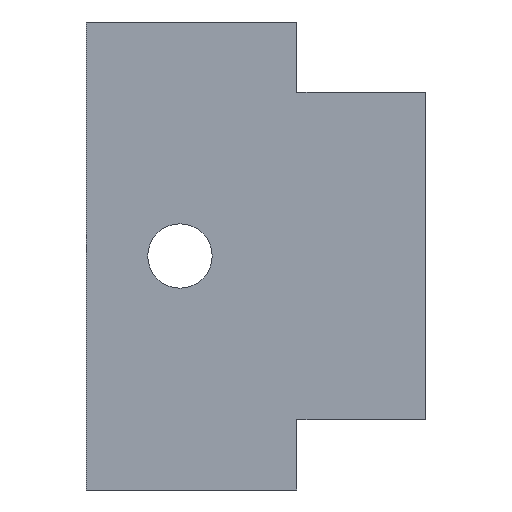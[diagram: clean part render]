
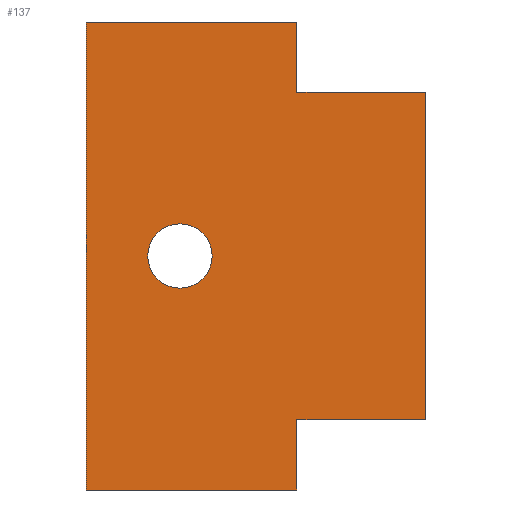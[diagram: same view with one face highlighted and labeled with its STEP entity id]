
A CAD part, front view. The second image highlights one B-rep face of the part: STEP entity #137.
In plain terms, the highlighted planar face has unit normal (0, -1, 0).
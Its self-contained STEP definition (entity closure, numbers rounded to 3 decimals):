
#21 = EDGE_CURVE('',#22,#24,#26,.T.);
#22 = VERTEX_POINT('',#23);
#23 = CARTESIAN_POINT('',(-18.,0.,-20.));
#24 = VERTEX_POINT('',#25);
#25 = CARTESIAN_POINT('',(-18.,0.,20.));
#26 = SURFACE_CURVE('',#27,(#31,#43),.PCURVE_S1.);
#27 = LINE('',#28,#29);
#28 = CARTESIAN_POINT('',(-18.,0.,-20.));
#29 = VECTOR('',#30,1.);
#30 = DIRECTION('',(0.,0.,1.));
#31 = PCURVE('',#32,#37);
#32 = PLANE('',#33);
#33 = AXIS2_PLACEMENT_3D('',#34,#35,#36);
#34 = CARTESIAN_POINT('',(-18.,0.,-20.));
#35 = DIRECTION('',(1.,0.,0.));
#36 = DIRECTION('',(0.,0.,1.));
#37 = DEFINITIONAL_REPRESENTATION('',(#38),#42);
#38 = LINE('',#39,#40);
#39 = CARTESIAN_POINT('',(0.,0.));
#40 = VECTOR('',#41,1.);
#41 = DIRECTION('',(1.,0.));
#42 = ( GEOMETRIC_REPRESENTATION_CONTEXT(2) 
PARAMETRIC_REPRESENTATION_CONTEXT() REPRESENTATION_CONTEXT('2D SPACE',''
  ) );
#43 = PCURVE('',#44,#49);
#44 = PLANE('',#45);
#45 = AXIS2_PLACEMENT_3D('',#46,#47,#48);
#46 = CARTESIAN_POINT('',(-18.,0.,-20.));
#47 = DIRECTION('',(0.,1.,0.));
#48 = DIRECTION('',(0.,0.,1.));
#49 = DEFINITIONAL_REPRESENTATION('',(#50),#54);
#50 = LINE('',#51,#52);
#51 = CARTESIAN_POINT('',(0.,0.));
#52 = VECTOR('',#53,1.);
#53 = DIRECTION('',(1.,0.));
#54 = ( GEOMETRIC_REPRESENTATION_CONTEXT(2) 
PARAMETRIC_REPRESENTATION_CONTEXT() REPRESENTATION_CONTEXT('2D SPACE',''
  ) );
#72 = PLANE('',#73);
#73 = AXIS2_PLACEMENT_3D('',#74,#75,#76);
#74 = CARTESIAN_POINT('',(-18.,0.,-20.));
#75 = DIRECTION('',(0.,0.,1.));
#76 = DIRECTION('',(1.,0.,0.));
#126 = PLANE('',#127);
#127 = AXIS2_PLACEMENT_3D('',#128,#129,#130);
#128 = CARTESIAN_POINT('',(-18.,0.,20.));
#129 = DIRECTION('',(0.,0.,1.));
#130 = DIRECTION('',(1.,0.,0.));
#137 = ADVANCED_FACE('',(#138,#325),#44,.F.);
#138 = FACE_BOUND('',#139,.F.);
#139 = EDGE_LOOP('',(#140,#163,#164,#187,#215,#243,#271,#299));
#140 = ORIENTED_EDGE('',*,*,#141,.F.);
#141 = EDGE_CURVE('',#22,#142,#144,.T.);
#142 = VERTEX_POINT('',#143);
#143 = CARTESIAN_POINT('',(0.,0.,-20.));
#144 = SURFACE_CURVE('',#145,(#149,#156),.PCURVE_S1.);
#145 = LINE('',#146,#147);
#146 = CARTESIAN_POINT('',(-18.,0.,-20.));
#147 = VECTOR('',#148,1.);
#148 = DIRECTION('',(1.,0.,0.));
#149 = PCURVE('',#44,#150);
#150 = DEFINITIONAL_REPRESENTATION('',(#151),#155);
#151 = LINE('',#152,#153);
#152 = CARTESIAN_POINT('',(0.,0.));
#153 = VECTOR('',#154,1.);
#154 = DIRECTION('',(0.,1.));
#155 = ( GEOMETRIC_REPRESENTATION_CONTEXT(2) 
PARAMETRIC_REPRESENTATION_CONTEXT() REPRESENTATION_CONTEXT('2D SPACE',''
  ) );
#156 = PCURVE('',#72,#157);
#157 = DEFINITIONAL_REPRESENTATION('',(#158),#162);
#158 = LINE('',#159,#160);
#159 = CARTESIAN_POINT('',(0.,0.));
#160 = VECTOR('',#161,1.);
#161 = DIRECTION('',(1.,0.));
#162 = ( GEOMETRIC_REPRESENTATION_CONTEXT(2) 
PARAMETRIC_REPRESENTATION_CONTEXT() REPRESENTATION_CONTEXT('2D SPACE',''
  ) );
#163 = ORIENTED_EDGE('',*,*,#21,.T.);
#164 = ORIENTED_EDGE('',*,*,#165,.T.);
#165 = EDGE_CURVE('',#24,#166,#168,.T.);
#166 = VERTEX_POINT('',#167);
#167 = CARTESIAN_POINT('',(0.,0.,20.));
#168 = SURFACE_CURVE('',#169,(#173,#180),.PCURVE_S1.);
#169 = LINE('',#170,#171);
#170 = CARTESIAN_POINT('',(-18.,0.,20.));
#171 = VECTOR('',#172,1.);
#172 = DIRECTION('',(1.,0.,0.));
#173 = PCURVE('',#44,#174);
#174 = DEFINITIONAL_REPRESENTATION('',(#175),#179);
#175 = LINE('',#176,#177);
#176 = CARTESIAN_POINT('',(40.,0.));
#177 = VECTOR('',#178,1.);
#178 = DIRECTION('',(0.,1.));
#179 = ( GEOMETRIC_REPRESENTATION_CONTEXT(2) 
PARAMETRIC_REPRESENTATION_CONTEXT() REPRESENTATION_CONTEXT('2D SPACE',''
  ) );
#180 = PCURVE('',#126,#181);
#181 = DEFINITIONAL_REPRESENTATION('',(#182),#186);
#182 = LINE('',#183,#184);
#183 = CARTESIAN_POINT('',(0.,0.));
#184 = VECTOR('',#185,1.);
#185 = DIRECTION('',(1.,0.));
#186 = ( GEOMETRIC_REPRESENTATION_CONTEXT(2) 
PARAMETRIC_REPRESENTATION_CONTEXT() REPRESENTATION_CONTEXT('2D SPACE',''
  ) );
#187 = ORIENTED_EDGE('',*,*,#188,.F.);
#188 = EDGE_CURVE('',#189,#166,#191,.T.);
#189 = VERTEX_POINT('',#190);
#190 = CARTESIAN_POINT('',(0.,0.,14.));
#191 = SURFACE_CURVE('',#192,(#196,#203),.PCURVE_S1.);
#192 = LINE('',#193,#194);
#193 = CARTESIAN_POINT('',(0.,0.,-20.));
#194 = VECTOR('',#195,1.);
#195 = DIRECTION('',(0.,0.,1.));
#196 = PCURVE('',#44,#197);
#197 = DEFINITIONAL_REPRESENTATION('',(#198),#202);
#198 = LINE('',#199,#200);
#199 = CARTESIAN_POINT('',(0.,18.));
#200 = VECTOR('',#201,1.);
#201 = DIRECTION('',(1.,0.));
#202 = ( GEOMETRIC_REPRESENTATION_CONTEXT(2) 
PARAMETRIC_REPRESENTATION_CONTEXT() REPRESENTATION_CONTEXT('2D SPACE',''
  ) );
#203 = PCURVE('',#204,#209);
#204 = PLANE('',#205);
#205 = AXIS2_PLACEMENT_3D('',#206,#207,#208);
#206 = CARTESIAN_POINT('',(0.,0.,-20.));
#207 = DIRECTION('',(1.,0.,0.));
#208 = DIRECTION('',(0.,0.,1.));
#209 = DEFINITIONAL_REPRESENTATION('',(#210),#214);
#210 = LINE('',#211,#212);
#211 = CARTESIAN_POINT('',(0.,0.));
#212 = VECTOR('',#213,1.);
#213 = DIRECTION('',(1.,0.));
#214 = ( GEOMETRIC_REPRESENTATION_CONTEXT(2) 
PARAMETRIC_REPRESENTATION_CONTEXT() REPRESENTATION_CONTEXT('2D SPACE',''
  ) );
#215 = ORIENTED_EDGE('',*,*,#216,.T.);
#216 = EDGE_CURVE('',#189,#217,#219,.T.);
#217 = VERTEX_POINT('',#218);
#218 = CARTESIAN_POINT('',(11.,0.,14.));
#219 = SURFACE_CURVE('',#220,(#224,#231),.PCURVE_S1.);
#220 = LINE('',#221,#222);
#221 = CARTESIAN_POINT('',(0.,0.,14.));
#222 = VECTOR('',#223,1.);
#223 = DIRECTION('',(1.,0.,0.));
#224 = PCURVE('',#44,#225);
#225 = DEFINITIONAL_REPRESENTATION('',(#226),#230);
#226 = LINE('',#227,#228);
#227 = CARTESIAN_POINT('',(34.,18.));
#228 = VECTOR('',#229,1.);
#229 = DIRECTION('',(0.,1.));
#230 = ( GEOMETRIC_REPRESENTATION_CONTEXT(2) 
PARAMETRIC_REPRESENTATION_CONTEXT() REPRESENTATION_CONTEXT('2D SPACE',''
  ) );
#231 = PCURVE('',#232,#237);
#232 = PLANE('',#233);
#233 = AXIS2_PLACEMENT_3D('',#234,#235,#236);
#234 = CARTESIAN_POINT('',(0.,0.,14.));
#235 = DIRECTION('',(0.,0.,1.));
#236 = DIRECTION('',(1.,0.,0.));
#237 = DEFINITIONAL_REPRESENTATION('',(#238),#242);
#238 = LINE('',#239,#240);
#239 = CARTESIAN_POINT('',(0.,0.));
#240 = VECTOR('',#241,1.);
#241 = DIRECTION('',(1.,0.));
#242 = ( GEOMETRIC_REPRESENTATION_CONTEXT(2) 
PARAMETRIC_REPRESENTATION_CONTEXT() REPRESENTATION_CONTEXT('2D SPACE',''
  ) );
#243 = ORIENTED_EDGE('',*,*,#244,.F.);
#244 = EDGE_CURVE('',#245,#217,#247,.T.);
#245 = VERTEX_POINT('',#246);
#246 = CARTESIAN_POINT('',(11.,0.,-14.));
#247 = SURFACE_CURVE('',#248,(#252,#259),.PCURVE_S1.);
#248 = LINE('',#249,#250);
#249 = CARTESIAN_POINT('',(11.,0.,-14.));
#250 = VECTOR('',#251,1.);
#251 = DIRECTION('',(0.,0.,1.));
#252 = PCURVE('',#44,#253);
#253 = DEFINITIONAL_REPRESENTATION('',(#254),#258);
#254 = LINE('',#255,#256);
#255 = CARTESIAN_POINT('',(6.,29.));
#256 = VECTOR('',#257,1.);
#257 = DIRECTION('',(1.,0.));
#258 = ( GEOMETRIC_REPRESENTATION_CONTEXT(2) 
PARAMETRIC_REPRESENTATION_CONTEXT() REPRESENTATION_CONTEXT('2D SPACE',''
  ) );
#259 = PCURVE('',#260,#265);
#260 = PLANE('',#261);
#261 = AXIS2_PLACEMENT_3D('',#262,#263,#264);
#262 = CARTESIAN_POINT('',(11.,0.,-14.));
#263 = DIRECTION('',(1.,0.,0.));
#264 = DIRECTION('',(0.,0.,1.));
#265 = DEFINITIONAL_REPRESENTATION('',(#266),#270);
#266 = LINE('',#267,#268);
#267 = CARTESIAN_POINT('',(0.,0.));
#268 = VECTOR('',#269,1.);
#269 = DIRECTION('',(1.,0.));
#270 = ( GEOMETRIC_REPRESENTATION_CONTEXT(2) 
PARAMETRIC_REPRESENTATION_CONTEXT() REPRESENTATION_CONTEXT('2D SPACE',''
  ) );
#271 = ORIENTED_EDGE('',*,*,#272,.F.);
#272 = EDGE_CURVE('',#273,#245,#275,.T.);
#273 = VERTEX_POINT('',#274);
#274 = CARTESIAN_POINT('',(0.,0.,-14.));
#275 = SURFACE_CURVE('',#276,(#280,#287),.PCURVE_S1.);
#276 = LINE('',#277,#278);
#277 = CARTESIAN_POINT('',(0.,0.,-14.));
#278 = VECTOR('',#279,1.);
#279 = DIRECTION('',(1.,0.,0.));
#280 = PCURVE('',#44,#281);
#281 = DEFINITIONAL_REPRESENTATION('',(#282),#286);
#282 = LINE('',#283,#284);
#283 = CARTESIAN_POINT('',(6.,18.));
#284 = VECTOR('',#285,1.);
#285 = DIRECTION('',(0.,1.));
#286 = ( GEOMETRIC_REPRESENTATION_CONTEXT(2) 
PARAMETRIC_REPRESENTATION_CONTEXT() REPRESENTATION_CONTEXT('2D SPACE',''
  ) );
#287 = PCURVE('',#288,#293);
#288 = PLANE('',#289);
#289 = AXIS2_PLACEMENT_3D('',#290,#291,#292);
#290 = CARTESIAN_POINT('',(0.,0.,-14.));
#291 = DIRECTION('',(0.,0.,1.));
#292 = DIRECTION('',(1.,0.,0.));
#293 = DEFINITIONAL_REPRESENTATION('',(#294),#298);
#294 = LINE('',#295,#296);
#295 = CARTESIAN_POINT('',(0.,0.));
#296 = VECTOR('',#297,1.);
#297 = DIRECTION('',(1.,0.));
#298 = ( GEOMETRIC_REPRESENTATION_CONTEXT(2) 
PARAMETRIC_REPRESENTATION_CONTEXT() REPRESENTATION_CONTEXT('2D SPACE',''
  ) );
#299 = ORIENTED_EDGE('',*,*,#300,.F.);
#300 = EDGE_CURVE('',#142,#273,#301,.T.);
#301 = SURFACE_CURVE('',#302,(#306,#313),.PCURVE_S1.);
#302 = LINE('',#303,#304);
#303 = CARTESIAN_POINT('',(0.,0.,-20.));
#304 = VECTOR('',#305,1.);
#305 = DIRECTION('',(0.,0.,1.));
#306 = PCURVE('',#44,#307);
#307 = DEFINITIONAL_REPRESENTATION('',(#308),#312);
#308 = LINE('',#309,#310);
#309 = CARTESIAN_POINT('',(0.,18.));
#310 = VECTOR('',#311,1.);
#311 = DIRECTION('',(1.,0.));
#312 = ( GEOMETRIC_REPRESENTATION_CONTEXT(2) 
PARAMETRIC_REPRESENTATION_CONTEXT() REPRESENTATION_CONTEXT('2D SPACE',''
  ) );
#313 = PCURVE('',#314,#319);
#314 = PLANE('',#315);
#315 = AXIS2_PLACEMENT_3D('',#316,#317,#318);
#316 = CARTESIAN_POINT('',(0.,0.,-20.));
#317 = DIRECTION('',(1.,0.,0.));
#318 = DIRECTION('',(0.,0.,1.));
#319 = DEFINITIONAL_REPRESENTATION('',(#320),#324);
#320 = LINE('',#321,#322);
#321 = CARTESIAN_POINT('',(0.,0.));
#322 = VECTOR('',#323,1.);
#323 = DIRECTION('',(1.,0.));
#324 = ( GEOMETRIC_REPRESENTATION_CONTEXT(2) 
PARAMETRIC_REPRESENTATION_CONTEXT() REPRESENTATION_CONTEXT('2D SPACE',''
  ) );
#325 = FACE_BOUND('',#326,.F.);
#326 = EDGE_LOOP('',(#327));
#327 = ORIENTED_EDGE('',*,*,#328,.F.);
#328 = EDGE_CURVE('',#329,#329,#331,.T.);
#329 = VERTEX_POINT('',#330);
#330 = CARTESIAN_POINT('',(-7.25,0.,0.));
#331 = SURFACE_CURVE('',#332,(#337,#344),.PCURVE_S1.);
#332 = CIRCLE('',#333,2.75);
#333 = AXIS2_PLACEMENT_3D('',#334,#335,#336);
#334 = CARTESIAN_POINT('',(-10.,0.,0.));
#335 = DIRECTION('',(-0.,1.,0.));
#336 = DIRECTION('',(1.,0.,0.));
#337 = PCURVE('',#44,#338);
#338 = DEFINITIONAL_REPRESENTATION('',(#339),#343);
#339 = CIRCLE('',#340,2.75);
#340 = AXIS2_PLACEMENT_2D('',#341,#342);
#341 = CARTESIAN_POINT('',(20.,8.));
#342 = DIRECTION('',(0.,1.));
#343 = ( GEOMETRIC_REPRESENTATION_CONTEXT(2) 
PARAMETRIC_REPRESENTATION_CONTEXT() REPRESENTATION_CONTEXT('2D SPACE',''
  ) );
#344 = PCURVE('',#345,#350);
#345 = CYLINDRICAL_SURFACE('',#346,2.75);
#346 = AXIS2_PLACEMENT_3D('',#347,#348,#349);
#347 = CARTESIAN_POINT('',(-10.,5.,0.));
#348 = DIRECTION('',(-0.,1.,-0.));
#349 = DIRECTION('',(1.,0.,0.));
#350 = DEFINITIONAL_REPRESENTATION('',(#351),#355);
#351 = LINE('',#352,#353);
#352 = CARTESIAN_POINT('',(-6.283,-5.));
#353 = VECTOR('',#354,1.);
#354 = DIRECTION('',(1.,-0.));
#355 = ( GEOMETRIC_REPRESENTATION_CONTEXT(2) 
PARAMETRIC_REPRESENTATION_CONTEXT() REPRESENTATION_CONTEXT('2D SPACE',''
  ) );
